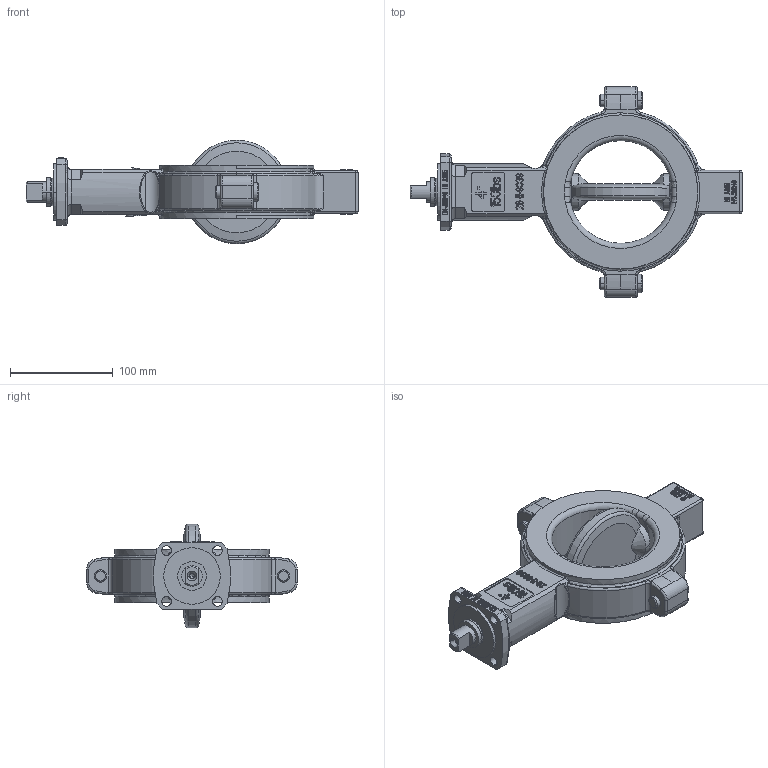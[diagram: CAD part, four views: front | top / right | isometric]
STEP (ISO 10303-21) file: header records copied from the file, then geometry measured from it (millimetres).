
FILE_DESCRIPTION((''),'2;1');
FILE_NAME('9520-00-5127_A_SW0001','2013-09-24T',('smarkstein'),(''),'PRO/ENGINEER BY PARAMETRIC TECHNOLOGY CORPORATION, 2011040','PRO/ENGINEER BY PARAMETRIC TECHNOLOGY CORPORATION, 2011040','');
FILE_SCHEMA(('CONFIG_CONTROL_DESIGN'));
Products named in the file (1): 9520-00-5127_A_SW0001
Bounding box: 323 x 205 x 100.71 mm (x, y, z)
Volume: 1000604.4 mm3; surface area: 193641 mm2
Topology: 1 solids, 2 shells, 2898 faces, 8093 edges, 5316 vertices
Faces by surface type: plane 2486, cylinder 158, bspline 126, torus 62, cone 46, sphere 10, extrusion 8, revolution 2
Entity records: 97997 total; most frequent: CARTESIAN_POINT 24384, ORIENTED_EDGE 16178, DIRECTION 13693, EDGE_CURVE 8089, VECTOR 7157, LINE 7149, VERTEX_POINT 5316, AXIS2_PLACEMENT_3D 3267
